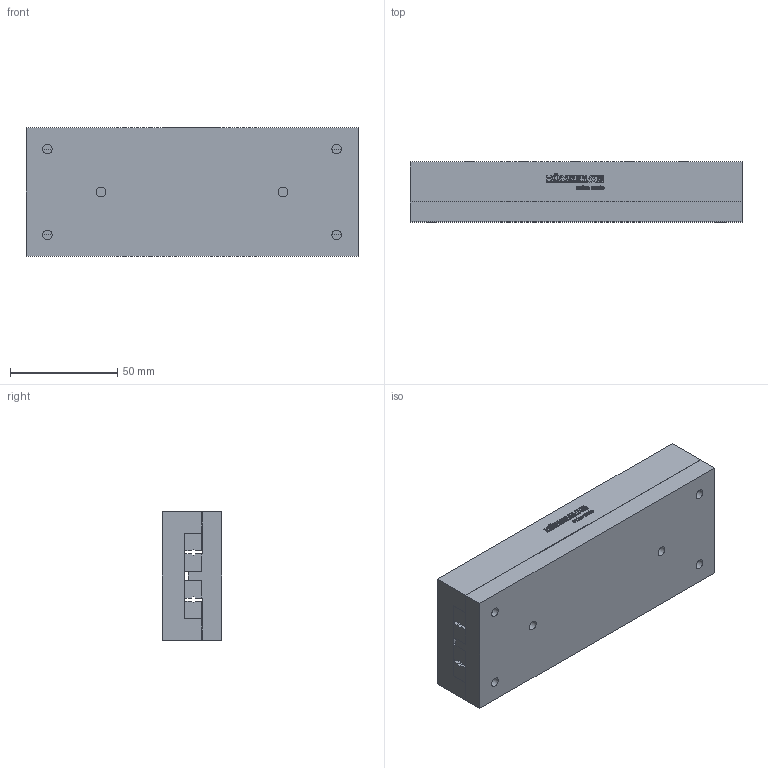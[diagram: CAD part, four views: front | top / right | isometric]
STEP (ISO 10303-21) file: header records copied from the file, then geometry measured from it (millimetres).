
FILE_DESCRIPTION(/* description */ ('STEP AP214'),/* implementation_level */ '2;1');
FILE_NAME(/* name */ 'NK 3-155-B(0)',/* time_stamp */ '2025-04-22T17:49:15+02:00',/* author */ ('License CC BY-ND 4.0'),/* organization */ ('CADENAS'),/* preprocessor_version */ 'ST-DEVELOPER v19.3',/* originating_system */ 'PARTsolutions',/* authorisation */ ' ');
FILE_SCHEMA (('AUTOMOTIVE_DESIGN {1 0 10303 214 3 1 1}'));
Length unit declared in the file: millimetre
Products named in the file (3): NK 3-155-B(0); NK 3-155-B_1; NK 3-155-B_2
Assembly tree (2 placements, depth 2):
  NK 3-155-B(0)
    NK 3-155-B_1
    NK 3-155-B_2
Bounding box: 155 x 28 x 60 mm (x, y, z)
Volume: 251692.6 mm3; surface area: 66268.8 mm2
Topology: 2 solids, 2 shells, 615 faces, 1740 edges, 1154 vertices
Faces by surface type: cylinder 314, plane 281, cone 20
Full cylindrical faces by diameter (mm): 3.242 x10, 4.5 x6, 7.5 x6
Entity records: 20049 total; most frequent: DIRECTION 3592, CARTESIAN_POINT 3520, ORIENTED_EDGE 3396, EDGE_CURVE 1698, AXIS2_PLACEMENT_3D 1296, VERTEX_POINT 1144, LINE 1000, VECTOR 1000
